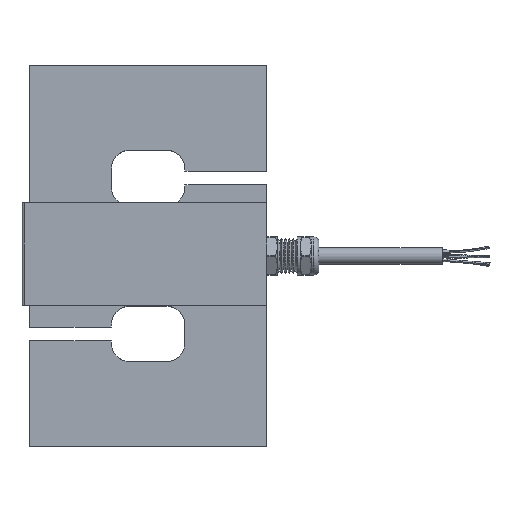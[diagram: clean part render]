
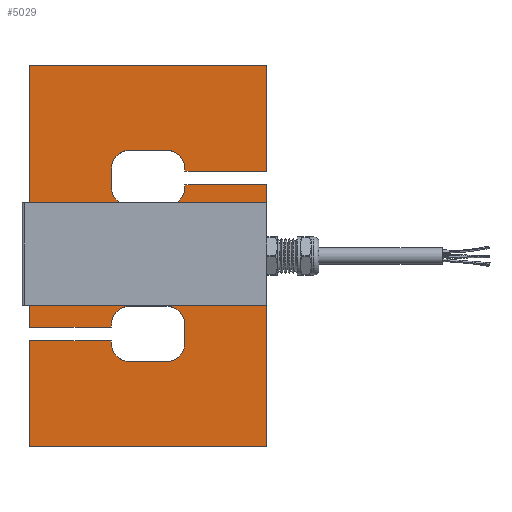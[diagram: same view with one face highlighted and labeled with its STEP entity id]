
A CAD part, top view. The second image highlights one B-rep face of the part: STEP entity #5029.
In plain terms, the highlighted planar face has unit normal (0, 0, 1).
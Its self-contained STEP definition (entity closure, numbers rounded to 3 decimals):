
#466=PLANE('',#5506);
#736=FACE_OUTER_BOUND('',#1036,.T.);
#1036=EDGE_LOOP('',(#3998,#3999,#4000,#4001,#4002,#4003,#4004,#4005,#4006,
#4007,#4008,#4009,#4010,#4011,#4012,#4013,#4014,#4015,#4016,#4017,#4018,
#4019,#4020,#4021,#4022,#4023,#4024,#4025));
#1415=LINE('',#8305,#1674);
#1416=LINE('',#8307,#1675);
#1417=LINE('',#8309,#1676);
#1418=LINE('',#8313,#1677);
#1419=LINE('',#8317,#1678);
#1420=LINE('',#8321,#1679);
#1421=LINE('',#8325,#1680);
#1422=LINE('',#8327,#1681);
#1423=LINE('',#8329,#1682);
#1424=LINE('',#8331,#1683);
#1425=LINE('',#8333,#1684);
#1426=LINE('',#8335,#1685);
#1427=LINE('',#8337,#1686);
#1428=LINE('',#8341,#1687);
#1429=LINE('',#8345,#1688);
#1430=LINE('',#8349,#1689);
#1431=LINE('',#8353,#1690);
#1432=LINE('',#8355,#1691);
#1433=LINE('',#8357,#1692);
#1434=LINE('',#8358,#1693);
#1674=VECTOR('',#6432,1000.);
#1675=VECTOR('',#6433,1000.);
#1676=VECTOR('',#6434,1000.);
#1677=VECTOR('',#6437,1000.);
#1678=VECTOR('',#6440,1000.);
#1679=VECTOR('',#6443,1000.);
#1680=VECTOR('',#6446,1000.);
#1681=VECTOR('',#6447,1000.);
#1682=VECTOR('',#6448,1000.);
#1683=VECTOR('',#6449,1000.);
#1684=VECTOR('',#6450,1000.);
#1685=VECTOR('',#6451,1000.);
#1686=VECTOR('',#6452,1000.);
#1687=VECTOR('',#6455,1000.);
#1688=VECTOR('',#6458,1000.);
#1689=VECTOR('',#6461,1000.);
#1690=VECTOR('',#6464,1000.);
#1691=VECTOR('',#6465,1000.);
#1692=VECTOR('',#6466,1000.);
#1693=VECTOR('',#6467,1000.);
#1989=CIRCLE('',#5507,7.);
#1990=CIRCLE('',#5508,7.);
#1991=CIRCLE('',#5509,7.);
#1992=CIRCLE('',#5510,7.);
#1993=CIRCLE('',#5511,7.);
#1994=CIRCLE('',#5512,7.);
#1995=CIRCLE('',#5513,7.);
#1996=CIRCLE('',#5514,7.);
#2302=VERTEX_POINT('',#8303);
#2303=VERTEX_POINT('',#8304);
#2304=VERTEX_POINT('',#8306);
#2305=VERTEX_POINT('',#8308);
#2306=VERTEX_POINT('',#8310);
#2307=VERTEX_POINT('',#8312);
#2308=VERTEX_POINT('',#8314);
#2309=VERTEX_POINT('',#8316);
#2310=VERTEX_POINT('',#8318);
#2311=VERTEX_POINT('',#8320);
#2312=VERTEX_POINT('',#8322);
#2313=VERTEX_POINT('',#8324);
#2314=VERTEX_POINT('',#8326);
#2315=VERTEX_POINT('',#8328);
#2316=VERTEX_POINT('',#8330);
#2317=VERTEX_POINT('',#8332);
#2318=VERTEX_POINT('',#8334);
#2319=VERTEX_POINT('',#8336);
#2320=VERTEX_POINT('',#8338);
#2321=VERTEX_POINT('',#8340);
#2322=VERTEX_POINT('',#8342);
#2323=VERTEX_POINT('',#8344);
#2324=VERTEX_POINT('',#8346);
#2325=VERTEX_POINT('',#8348);
#2326=VERTEX_POINT('',#8350);
#2327=VERTEX_POINT('',#8352);
#2328=VERTEX_POINT('',#8354);
#2329=VERTEX_POINT('',#8356);
#2987=EDGE_CURVE('',#2302,#2303,#1415,.T.);
#2988=EDGE_CURVE('',#2303,#2304,#1416,.T.);
#2989=EDGE_CURVE('',#2304,#2305,#1417,.T.);
#2990=EDGE_CURVE('',#2305,#2306,#1989,.T.);
#2991=EDGE_CURVE('',#2306,#2307,#1418,.T.);
#2992=EDGE_CURVE('',#2307,#2308,#1990,.T.);
#2993=EDGE_CURVE('',#2308,#2309,#1419,.T.);
#2994=EDGE_CURVE('',#2309,#2310,#1991,.T.);
#2995=EDGE_CURVE('',#2310,#2311,#1420,.T.);
#2996=EDGE_CURVE('',#2311,#2312,#1992,.T.);
#2997=EDGE_CURVE('',#2312,#2313,#1421,.T.);
#2998=EDGE_CURVE('',#2313,#2314,#1422,.T.);
#2999=EDGE_CURVE('',#2314,#2315,#1423,.T.);
#3000=EDGE_CURVE('',#2315,#2316,#1424,.T.);
#3001=EDGE_CURVE('',#2317,#2316,#1425,.T.);
#3002=EDGE_CURVE('',#2317,#2318,#1426,.T.);
#3003=EDGE_CURVE('',#2318,#2319,#1427,.T.);
#3004=EDGE_CURVE('',#2319,#2320,#1993,.T.);
#3005=EDGE_CURVE('',#2320,#2321,#1428,.T.);
#3006=EDGE_CURVE('',#2321,#2322,#1994,.T.);
#3007=EDGE_CURVE('',#2322,#2323,#1429,.T.);
#3008=EDGE_CURVE('',#2323,#2324,#1995,.T.);
#3009=EDGE_CURVE('',#2324,#2325,#1430,.T.);
#3010=EDGE_CURVE('',#2325,#2326,#1996,.T.);
#3011=EDGE_CURVE('',#2326,#2327,#1431,.T.);
#3012=EDGE_CURVE('',#2327,#2328,#1432,.T.);
#3013=EDGE_CURVE('',#2329,#2328,#1433,.T.);
#3014=EDGE_CURVE('',#2302,#2329,#1434,.T.);
#3998=ORIENTED_EDGE('',*,*,#2987,.T.);
#3999=ORIENTED_EDGE('',*,*,#2988,.T.);
#4000=ORIENTED_EDGE('',*,*,#2989,.T.);
#4001=ORIENTED_EDGE('',*,*,#2990,.T.);
#4002=ORIENTED_EDGE('',*,*,#2991,.T.);
#4003=ORIENTED_EDGE('',*,*,#2992,.T.);
#4004=ORIENTED_EDGE('',*,*,#2993,.T.);
#4005=ORIENTED_EDGE('',*,*,#2994,.T.);
#4006=ORIENTED_EDGE('',*,*,#2995,.T.);
#4007=ORIENTED_EDGE('',*,*,#2996,.T.);
#4008=ORIENTED_EDGE('',*,*,#2997,.T.);
#4009=ORIENTED_EDGE('',*,*,#2998,.T.);
#4010=ORIENTED_EDGE('',*,*,#2999,.T.);
#4011=ORIENTED_EDGE('',*,*,#3000,.T.);
#4012=ORIENTED_EDGE('',*,*,#3001,.F.);
#4013=ORIENTED_EDGE('',*,*,#3002,.T.);
#4014=ORIENTED_EDGE('',*,*,#3003,.T.);
#4015=ORIENTED_EDGE('',*,*,#3004,.T.);
#4016=ORIENTED_EDGE('',*,*,#3005,.T.);
#4017=ORIENTED_EDGE('',*,*,#3006,.T.);
#4018=ORIENTED_EDGE('',*,*,#3007,.T.);
#4019=ORIENTED_EDGE('',*,*,#3008,.T.);
#4020=ORIENTED_EDGE('',*,*,#3009,.T.);
#4021=ORIENTED_EDGE('',*,*,#3010,.T.);
#4022=ORIENTED_EDGE('',*,*,#3011,.T.);
#4023=ORIENTED_EDGE('',*,*,#3012,.T.);
#4024=ORIENTED_EDGE('',*,*,#3013,.F.);
#4025=ORIENTED_EDGE('',*,*,#3014,.F.);
#5029=ADVANCED_FACE('',(#736),#466,.T.);
#5506=AXIS2_PLACEMENT_3D('',#8302,#6430,#6431);
#5507=AXIS2_PLACEMENT_3D('',#8311,#6435,#6436);
#5508=AXIS2_PLACEMENT_3D('',#8315,#6438,#6439);
#5509=AXIS2_PLACEMENT_3D('',#8319,#6441,#6442);
#5510=AXIS2_PLACEMENT_3D('',#8323,#6444,#6445);
#5511=AXIS2_PLACEMENT_3D('',#8339,#6453,#6454);
#5512=AXIS2_PLACEMENT_3D('',#8343,#6456,#6457);
#5513=AXIS2_PLACEMENT_3D('',#8347,#6459,#6460);
#5514=AXIS2_PLACEMENT_3D('',#8351,#6462,#6463);
#6430=DIRECTION('center_axis',(0.,0.,1.));
#6431=DIRECTION('ref_axis',(1.,0.,0.));
#6432=DIRECTION('',(0.,-1.,0.));
#6433=DIRECTION('',(1.,0.,0.));
#6434=DIRECTION('',(0.,1.,0.));
#6435=DIRECTION('center_axis',(0.,0.,-1.));
#6436=DIRECTION('ref_axis',(-1.,0.,0.));
#6437=DIRECTION('',(1.,0.,0.));
#6438=DIRECTION('center_axis',(0.,0.,-1.));
#6439=DIRECTION('ref_axis',(-1.,0.,0.));
#6440=DIRECTION('',(0.,-1.,0.));
#6441=DIRECTION('center_axis',(0.,0.,-1.));
#6442=DIRECTION('ref_axis',(1.,0.,0.));
#6443=DIRECTION('',(-1.,0.,0.));
#6444=DIRECTION('center_axis',(0.,0.,-1.));
#6445=DIRECTION('ref_axis',(1.,0.,0.));
#6446=DIRECTION('',(0.,1.,0.));
#6447=DIRECTION('',(-1.,0.,0.));
#6448=DIRECTION('',(0.,-1.,0.));
#6449=DIRECTION('',(1.,0.,0.));
#6450=DIRECTION('',(0.,-1.,0.));
#6451=DIRECTION('',(-1.,0.,0.));
#6452=DIRECTION('',(0.,-1.,0.));
#6453=DIRECTION('center_axis',(0.,0.,-1.));
#6454=DIRECTION('ref_axis',(1.,0.,0.));
#6455=DIRECTION('',(-1.,0.,0.));
#6456=DIRECTION('center_axis',(0.,0.,-1.));
#6457=DIRECTION('ref_axis',(1.,0.,0.));
#6458=DIRECTION('',(0.,1.,0.));
#6459=DIRECTION('center_axis',(0.,0.,-1.));
#6460=DIRECTION('ref_axis',(-1.,0.,0.));
#6461=DIRECTION('',(1.,0.,0.));
#6462=DIRECTION('center_axis',(0.,0.,-1.));
#6463=DIRECTION('ref_axis',(-1.,0.,0.));
#6464=DIRECTION('',(0.,-1.,0.));
#6465=DIRECTION('',(1.,0.,0.));
#6466=DIRECTION('',(0.,-1.,0.));
#6467=DIRECTION('',(1.,0.,0.));
#8302=CARTESIAN_POINT('Origin',(-15.,63.269,58.1));
#8303=CARTESIAN_POINT('',(-58.5,133.269,58.1));
#8304=CARTESIAN_POINT('',(-58.5,37.169,58.1));
#8305=CARTESIAN_POINT('',(-58.5,133.269,58.1));
#8306=CARTESIAN_POINT('',(-28.5,37.169,58.1));
#8307=CARTESIAN_POINT('',(-28.5,37.169,58.1));
#8308=CARTESIAN_POINT('',(-28.5,37.869,58.1));
#8309=CARTESIAN_POINT('',(-28.5,37.869,58.1));
#8310=CARTESIAN_POINT('',(-21.5,44.869,58.1));
#8311=CARTESIAN_POINT('Origin',(-21.5,37.869,58.1));
#8312=CARTESIAN_POINT('',(-8.5,44.869,58.1));
#8313=CARTESIAN_POINT('',(-21.5,44.869,58.1));
#8314=CARTESIAN_POINT('',(-1.5,37.869,58.1));
#8315=CARTESIAN_POINT('Origin',(-8.5,37.869,58.1));
#8316=CARTESIAN_POINT('',(-1.5,31.469,58.1));
#8317=CARTESIAN_POINT('',(-1.5,37.869,58.1));
#8318=CARTESIAN_POINT('',(-8.5,24.469,58.1));
#8319=CARTESIAN_POINT('Origin',(-8.5,31.469,58.1));
#8320=CARTESIAN_POINT('',(-21.5,24.469,58.1));
#8321=CARTESIAN_POINT('',(-21.5,24.469,58.1));
#8322=CARTESIAN_POINT('',(-28.5,31.469,58.1));
#8323=CARTESIAN_POINT('Origin',(-21.5,31.469,58.1));
#8324=CARTESIAN_POINT('',(-28.5,32.169,58.1));
#8325=CARTESIAN_POINT('',(-28.5,32.169,58.1));
#8326=CARTESIAN_POINT('',(-58.5,32.169,58.1));
#8327=CARTESIAN_POINT('',(-28.5,32.169,58.1));
#8328=CARTESIAN_POINT('',(-58.5,-6.731,58.1));
#8329=CARTESIAN_POINT('',(-58.5,133.269,58.1));
#8330=CARTESIAN_POINT('',(28.5,-6.731,58.1));
#8331=CARTESIAN_POINT('',(28.5,-6.731,58.1));
#8332=CARTESIAN_POINT('',(28.5,89.369,58.1));
#8333=CARTESIAN_POINT('',(28.5,133.269,58.1));
#8334=CARTESIAN_POINT('',(-1.5,89.369,58.1));
#8335=CARTESIAN_POINT('',(28.5,89.369,58.1));
#8336=CARTESIAN_POINT('',(-1.5,88.669,58.1));
#8337=CARTESIAN_POINT('',(-1.5,88.669,58.1));
#8338=CARTESIAN_POINT('',(-8.5,81.669,58.1));
#8339=CARTESIAN_POINT('Origin',(-8.5,88.669,58.1));
#8340=CARTESIAN_POINT('',(-21.5,81.669,58.1));
#8341=CARTESIAN_POINT('',(-21.5,81.669,58.1));
#8342=CARTESIAN_POINT('',(-28.5,88.669,58.1));
#8343=CARTESIAN_POINT('Origin',(-21.5,88.669,58.1));
#8344=CARTESIAN_POINT('',(-28.5,95.069,58.1));
#8345=CARTESIAN_POINT('',(-28.5,88.669,58.1));
#8346=CARTESIAN_POINT('',(-21.5,102.069,58.1));
#8347=CARTESIAN_POINT('Origin',(-21.5,95.069,58.1));
#8348=CARTESIAN_POINT('',(-8.5,102.069,58.1));
#8349=CARTESIAN_POINT('',(-21.5,102.069,58.1));
#8350=CARTESIAN_POINT('',(-1.5,95.069,58.1));
#8351=CARTESIAN_POINT('Origin',(-8.5,95.069,58.1));
#8352=CARTESIAN_POINT('',(-1.5,94.369,58.1));
#8353=CARTESIAN_POINT('',(-1.5,94.369,58.1));
#8354=CARTESIAN_POINT('',(28.5,94.369,58.1));
#8355=CARTESIAN_POINT('',(28.5,94.369,58.1));
#8356=CARTESIAN_POINT('',(28.5,133.269,58.1));
#8357=CARTESIAN_POINT('',(28.5,133.269,58.1));
#8358=CARTESIAN_POINT('',(28.5,133.269,58.1));
